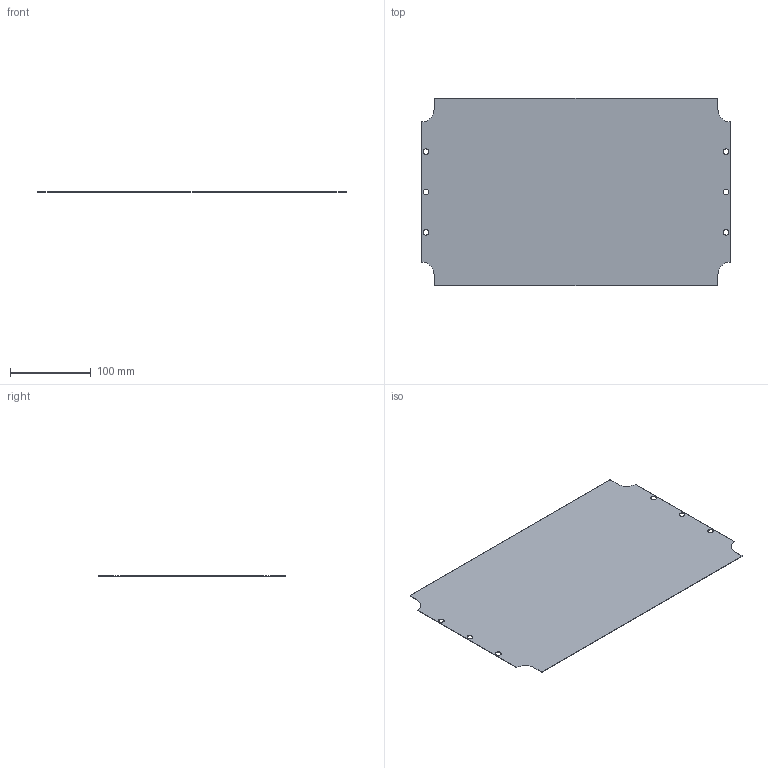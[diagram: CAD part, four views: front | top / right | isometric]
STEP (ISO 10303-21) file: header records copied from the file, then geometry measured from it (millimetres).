
FILE_DESCRIPTION((''),'2;1');
FILE_NAME('c:\temp\243PL.stp','2006-07-18T13:50:54',('kbond'),(''),'Autodesk Inventor 11','Autodesk Inventor 11','');
FILE_SCHEMA(('AUTOMOTIVE_DESIGN { 1 0 10303 214 1 1 1 1 }'));
Length unit declared in the file: millimetre
Products named in the file (1): 243PL
Bounding box: 382 x 232 x 0.5 mm (x, y, z)
Volume: 43422.1 mm3; surface area: 174354.4 mm2
Topology: 1 solids, 1 shells, 24 faces, 72 edges, 50 vertices
Faces by surface type: plane 14, bspline 6, cylinder 4
Entity records: 865 total; most frequent: CARTESIAN_POINT 231, ORIENTED_EDGE 120, DIRECTION 118, EDGE_CURVE 60, VERTEX_POINT 44, EDGE_LOOP 42, VECTOR 40, LINE 40
